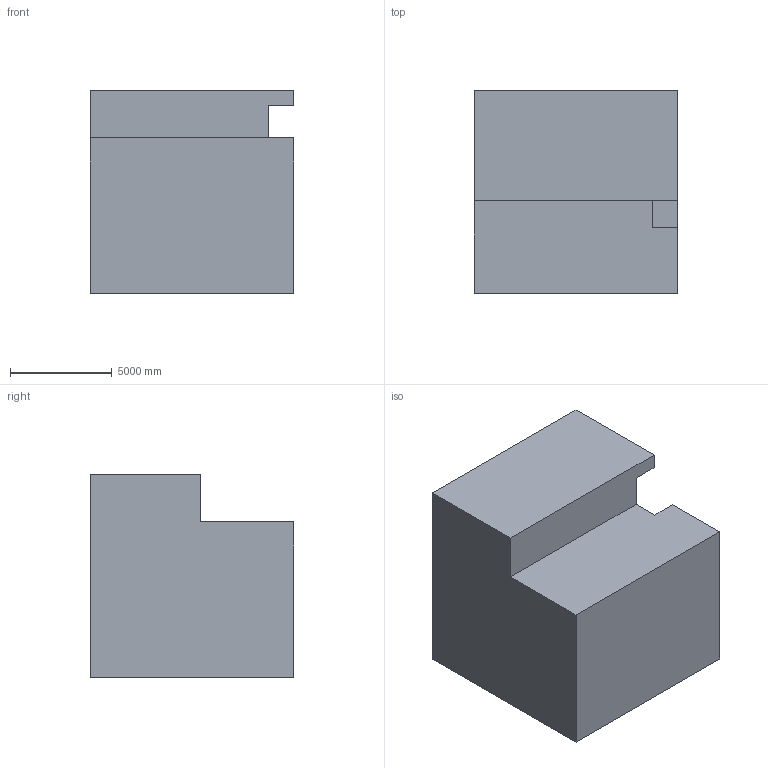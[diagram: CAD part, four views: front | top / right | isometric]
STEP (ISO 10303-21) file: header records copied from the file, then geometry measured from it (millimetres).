
FILE_DESCRIPTION (( 'STEP AP203' ), '1' );
FILE_NAME ('1029.STEP', '2022-08-18T12:29:01', ( 'user' ), ( '' ), 'SwSTEP 2.0', 'SolidWorks 2021', '' );
FILE_SCHEMA (( 'CONFIG_CONTROL_DESIGN' ));
Length unit declared in the file: centimetre
Products named in the file (1): 1029
Bounding box: 10000 x 10000 x 10000 mm (x, y, z)
Volume: 848972896276.9 mm3; surface area: 588265943.3 mm2
Topology: 1 solids, 1 shells, 13 faces, 33 edges, 22 vertices
Faces by surface type: plane 13
Entity records: 464 total; most frequent: CARTESIAN_POINT 69, ORIENTED_EDGE 66, DIRECTION 61, EDGE_CURVE 33, VECTOR 33, LINE 33, VERTEX_POINT 22, AXIS2_PLACEMENT_3D 14
